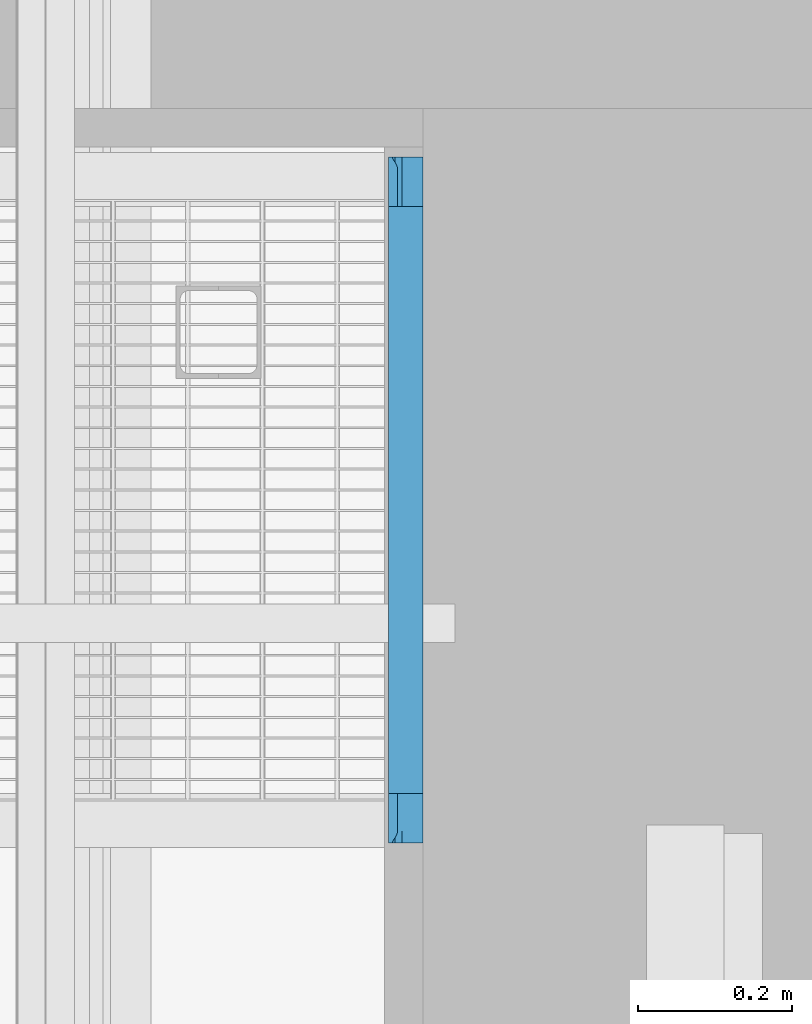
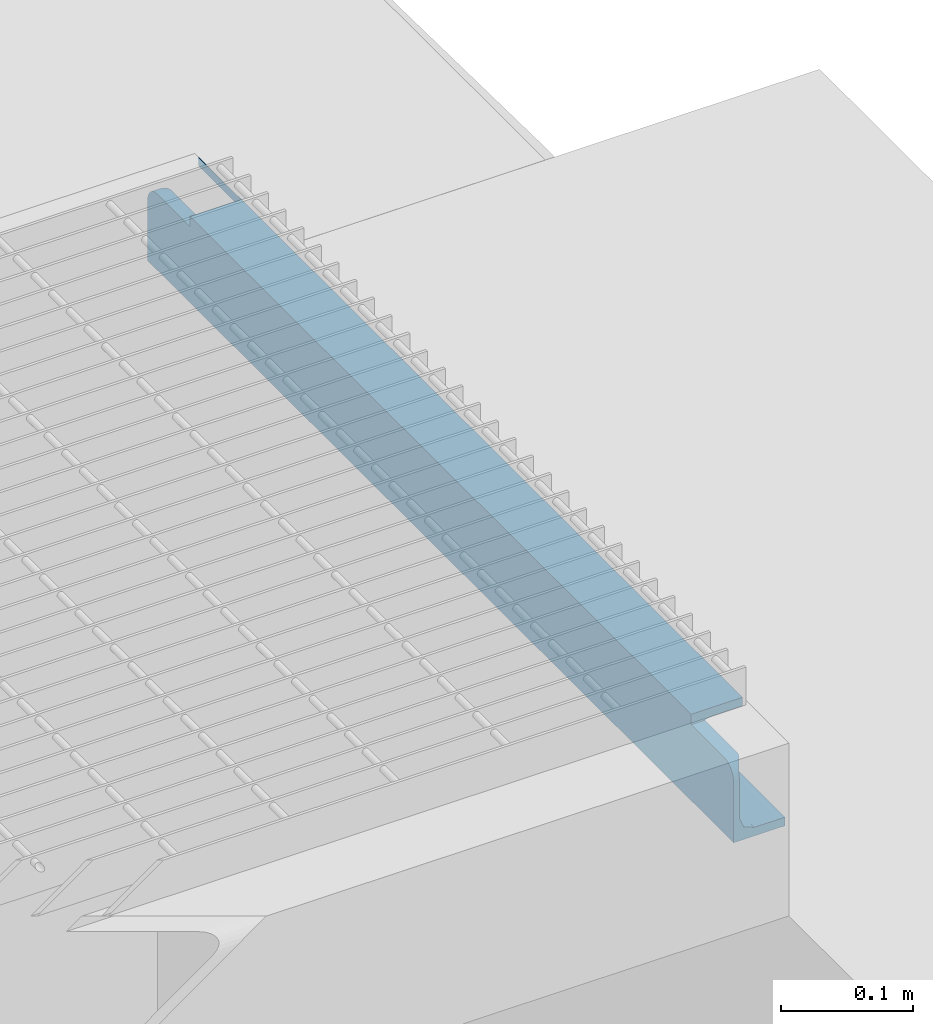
# One storey, part 54 of 75: 1 beam.
"""IFC2X3 building model written with IfcOpenShell, lengths in metres."""

from ifc_helpers import new_model, entity, si_unit, converted_unit, derived_unit, direction, frame, origin, place, context, subcontext, project, spatial, faceted_brep, material, type_object, element, save


model = new_model("IFC2X3")

# Units and contexts
model_context = context("Model", 3, precision=1e-05, world=origin(), true_north=direction((6.12303176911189e-17, 1.0)))
body_context = subcontext(model_context, "Body", "Model", "MODEL_VIEW")
ifc_project = project(units=[si_unit("LENGTHUNIT", "METRE"), si_unit("AREAUNIT", "SQUARE_METRE"), si_unit("VOLUMEUNIT", "CUBIC_METRE"), converted_unit("PLANEANGLEUNIT", "DEGREE", entity("IfcRatioMeasure", 0.0174532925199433), si_unit("PLANEANGLEUNIT", "RADIAN"), dimensions=[0, 0, 0, 0, 0, 0, 0]), si_unit("MASSUNIT", "GRAM", prefix="KILO"), derived_unit("MASSDENSITYUNIT", [(si_unit("MASSUNIT", "GRAM", prefix="KILO"), 1), (si_unit("LENGTHUNIT", "METRE"), -3)]), derived_unit("MOMENTOFINERTIAUNIT", [(si_unit("LENGTHUNIT", "METRE"), 4)]), si_unit("TIMEUNIT", "SECOND"), si_unit("FREQUENCYUNIT", "HERTZ"), si_unit("THERMODYNAMICTEMPERATUREUNIT", "DEGREE_CELSIUS"), derived_unit("THERMALTRANSMITTANCEUNIT", [(si_unit("MASSUNIT", "GRAM", prefix="KILO"), 1), (si_unit("THERMODYNAMICTEMPERATUREUNIT", "KELVIN"), -1), (si_unit("TIMEUNIT", "SECOND"), -3)]), derived_unit("VOLUMETRICFLOWRATEUNIT", [(si_unit("LENGTHUNIT", "METRE"), 3), (si_unit("TIMEUNIT", "SECOND"), -1)]), si_unit("ELECTRICCURRENTUNIT", "AMPERE"), si_unit("ELECTRICVOLTAGEUNIT", "VOLT"), si_unit("POWERUNIT", "WATT"), si_unit("FORCEUNIT", "NEWTON", prefix="KILO"), si_unit("ILLUMINANCEUNIT", "LUX"), si_unit("LUMINOUSFLUXUNIT", "LUMEN"), si_unit("LUMINOUSINTENSITYUNIT", "CANDELA"), derived_unit("USERDEFINED", [(si_unit("MASSUNIT", "GRAM", prefix="KILO"), -1), (si_unit("LENGTHUNIT", "METRE"), -2), (si_unit("TIMEUNIT", "SECOND"), 3), (si_unit("LUMINOUSFLUXUNIT", "LUMEN"), 1)]), derived_unit("LINEARVELOCITYUNIT", [(si_unit("LENGTHUNIT", "METRE"), 1), (si_unit("TIMEUNIT", "SECOND"), -1)]), si_unit("PRESSUREUNIT", "PASCAL"), derived_unit("USERDEFINED", [(si_unit("LENGTHUNIT", "METRE"), -2), (si_unit("MASSUNIT", "GRAM", prefix="KILO"), 1), (si_unit("TIMEUNIT", "SECOND"), -2)]), derived_unit("LINEARFORCEUNIT", [(si_unit("MASSUNIT", "GRAM", prefix="KILO"), 1), (si_unit("LENGTHUNIT", "METRE"), 1), (si_unit("TIMEUNIT", "SECOND"), -2), (si_unit("LENGTHUNIT", "METRE"), -1)]), derived_unit("PLANARFORCEUNIT", [(si_unit("MASSUNIT", "GRAM", prefix="KILO"), 1), (si_unit("LENGTHUNIT", "METRE"), 1), (si_unit("TIMEUNIT", "SECOND"), -2), (si_unit("LENGTHUNIT", "METRE"), -2)])], contexts=[model_context])

# Site, building, storey
site_placement = place(None, origin())
site = spatial("IfcSite", under=ifc_project, at=site_placement, Name="Superficie", CompositionType="ELEMENT")
building_placement = place(site_placement, origin())
building = spatial("IfcBuilding", under=site, at=building_placement, Name="Telegestiones", CompositionType="ELEMENT")
storey_placement = place(building_placement, origin())
storey = spatial("IfcBuildingStorey", under=building, at=storey_placement, Name="Nivel 0_NPT", CompositionType="ELEMENT", Elevation=0.0)

# Beam
ifc_material = material(Name="Metal - Acero - 345 MPa")
beam_type = type_object("IfcBeamType", Name="U-Canales de ala paralela:UAP80", PredefinedType="NOTDEFINED")
beam_placement = place(storey_placement, frame((14.9198126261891, 12.7898119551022, 17.78), z_axis=(0.0, 0.0, 1.0), x_axis=(0.0, -1.0, 0.0)))
element("IfcBeam", 1, at=beam_placement, inside=storey, type_object=beam_type, material=ifc_material, Name="U-Canales de ala paralela:UAP80", ObjectType="U-Canales de ala paralela:UAP80", context=body_context, shape_type="Brep", body=[
    faceted_brep([(-0.00159527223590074, 0.0450000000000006, 0.0), (-0.00159527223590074, 0.0450000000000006, 0.00800000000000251), (-0.00159527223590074, 0.0180000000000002, 0.00800000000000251), (-0.00159527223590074, 0.0140667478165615, 0.00962920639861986), (-0.00159527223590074, 0.0114371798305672, 0.0107184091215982), (-0.00159527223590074, 0.00880761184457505, 0.0118076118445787), (-0.00159527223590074, 0.00785570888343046, 0.0141057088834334), (-0.00159527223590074, 0.00690380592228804, 0.0164038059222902), (-0.00159527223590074, 0.00595190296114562, 0.0187019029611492), (-0.00159527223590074, 0.00500000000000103, 0.0210000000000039), (-0.00159527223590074, 0.00500000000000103, 0.0579413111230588), (-0.00159527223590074, 0.0, 0.0579413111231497), (-0.00159527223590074, 0.0, 0.0), (-0.890595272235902, 0.0180000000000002, 0.00800000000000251), (-0.890595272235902, 0.0450000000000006, 0.00800000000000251), (-0.890595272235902, 0.0450000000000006, 0.0), (-0.890595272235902, 0.0, 0.0), (-0.890595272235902, 0.0, 0.0579413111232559), (-0.890595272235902, 0.00500000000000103, 0.0579413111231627), (-0.890595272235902, 0.00500000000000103, 0.0210000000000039), (-0.8905952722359, 0.00581460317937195, 0.0190333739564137), (-0.8905952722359, 0.00690380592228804, 0.0164038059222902), (-0.8905952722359, 0.00785570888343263, 0.0141057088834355), (-0.890595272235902, 0.00880761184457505, 0.0118076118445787), (-0.8905952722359, 0.0111057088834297, 0.0108557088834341), (-0.8905952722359, 0.0134038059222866, 0.00990380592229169), (-0.8905952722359, 0.0160333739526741, 0.00881460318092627), (-0.8905952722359, 0.044738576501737, 0.0800000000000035), (-0.8905952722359, 0.0450000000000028, 0.0800000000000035), (-0.8905952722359, 0.0450000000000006, 0.0720000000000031), (-0.8905952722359, 0.0447385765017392, 0.0720000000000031), (-0.0658952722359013, 0.0, 0.0800000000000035), (-0.0658952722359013, 0.0450000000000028, 0.0800000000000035), (-0.826295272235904, 0.044738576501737, 0.0800000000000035), (-0.826295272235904, 0.0, 0.0800000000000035), (-0.0658952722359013, 0.0450000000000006, 0.0720000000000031), (-0.0658952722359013, 0.0180000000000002, 0.0720000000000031), (-0.128842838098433, 0.0180000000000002, 0.0720000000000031), (-0.194304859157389, 0.0180000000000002, 0.0720000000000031), (-0.322714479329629, 0.0180000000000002, 0.0720000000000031), (-0.448609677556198, 0.0180000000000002, 0.0720000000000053), (-0.574504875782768, 0.0180000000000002, 0.0720000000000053), (-0.700400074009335, 0.0180000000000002, 0.0720000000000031), (-0.76334767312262, 0.0180000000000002, 0.0720000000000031), (-0.826295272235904, 0.0180000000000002, 0.0720000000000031), (-0.826295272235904, 0.044738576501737, 0.0720000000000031), (-0.125338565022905, 0.00873473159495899, 0.0681189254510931), (-0.00990097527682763, 0.00971902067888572, 0.0690212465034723), (-0.00722207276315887, 0.00805140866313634, 0.0673681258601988), (-0.544296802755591, 0.00667192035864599, 0.0653776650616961), (-0.463738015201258, 0.00590908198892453, 0.0637759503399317), (-0.537050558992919, 0.00560250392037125, 0.0629117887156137), (-0.792641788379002, 0.00525335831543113, 0.0615540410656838), (-0.794133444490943, 0.00500000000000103, 0.0590000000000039), (-0.890381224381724, 0.00500000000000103, 0.0590000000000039), (-0.0658952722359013, 0.0119378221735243, 0.0705000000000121), (-0.138679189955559, 0.0108749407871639, 0.0698735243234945), (-0.289684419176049, 0.00818591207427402, 0.0675254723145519), (-0.235689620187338, 0.00983678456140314, 0.0691174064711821), (-0.221438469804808, 0.00711297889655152, 0.0661044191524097), (-0.828358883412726, 0.00588467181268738, 0.0637136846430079), (-0.754190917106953, 0.0058648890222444, 0.0636625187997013), (-0.122570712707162, 0.00586898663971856, 0.0636731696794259), (-0.00489743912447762, 0.00653775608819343, 0.0651332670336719), (-0.00303111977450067, 0.00542889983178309, 0.0623117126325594), (-0.139747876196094, 0.0133736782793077, 0.0711489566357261), (-0.0658952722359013, 0.0148775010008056, 0.071619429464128), (-0.826295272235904, 0.0148775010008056, 0.071619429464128), (-0.72500678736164, 0.007054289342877, 0.0660136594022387), (-0.806159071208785, 0.007190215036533, 0.0662213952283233), (-0.751188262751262, 0.00871967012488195, 0.0681035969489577), (-0.82174199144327, 0.00878771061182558, 0.0681724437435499), (-0.73187387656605, 0.0157137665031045, 0.0717973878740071), (-0.656388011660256, 0.0158751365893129, 0.0718251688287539), (-0.887293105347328, 0.00653775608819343, 0.0651332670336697), (-0.884968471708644, 0.00805140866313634, 0.0673681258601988), (-0.153427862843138, 0.00681728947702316, 0.065629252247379), (-0.0851009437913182, 0.00708655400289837, 0.0660637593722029), (-0.223870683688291, 0.00557806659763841, 0.0628334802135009), (-0.324805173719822, 0.00685931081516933, 0.0656996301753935), (-0.889159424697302, 0.00542889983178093, 0.0623117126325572), (-0.0163952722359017, 0.01193782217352, 0.07050000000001), (-0.0129474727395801, 0.0112305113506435, 0.0700983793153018), (-0.875795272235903, 0.0119378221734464, 0.070499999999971), (-0.826295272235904, 0.0119378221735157, 0.0705000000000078), (-0.879243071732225, 0.0112305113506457, 0.0700983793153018), (-0.39938042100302, 0.00536884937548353, 0.0620747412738), (-0.392844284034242, 0.00621995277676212, 0.0644982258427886), (-0.226457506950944, 0.0133736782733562, 0.0711489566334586), (-0.161573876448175, 0.0157225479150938, 0.0717989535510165), (-0.753454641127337, 0.0133736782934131, 0.0711489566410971), (-0.667605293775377, 0.0133736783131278, 0.0711489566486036), (-0.710529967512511, 0.0108989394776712, 0.0698892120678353), (-0.882289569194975, 0.00971902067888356, 0.0690212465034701), (-0.390878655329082, 0.0147556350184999, 0.0715886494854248), (-0.511557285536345, 0.0147219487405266, 0.0715799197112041), (-0.447031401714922, 0.0116878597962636, 0.0703647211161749), (-0.155170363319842, 0.00522625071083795, 0.0614148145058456), (-0.0800317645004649, 0.00520855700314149, 0.0613192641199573), (-0.127704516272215, 0.00500000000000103, 0.0590000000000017), (-0.717894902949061, 0.00523967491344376, 0.0614847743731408), (-0.664463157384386, 0.00890351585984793, 0.068287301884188), (-0.313627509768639, 0.0152996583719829, 0.0717164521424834), (-0.236434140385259, 0.0158580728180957, 0.071822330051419), (-0.5669123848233, 0.011307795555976, 0.0701451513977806), (-0.449725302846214, 0.007164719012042, 0.0661830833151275), (-0.330812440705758, 0.01176120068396, 0.0704051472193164), (-0.00180932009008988, 0.00500000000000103, 0.0590000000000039), (-0.374471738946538, 0.00795566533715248, 0.0672529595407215), (-0.339661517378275, 0.00960203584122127, 0.0689234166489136), (-0.495596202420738, 0.00856943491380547, 0.0679478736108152), (-0.419471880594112, 0.00955595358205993, 0.0688842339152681), (-0.591250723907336, 0.0142535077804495, 0.0714484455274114), (-0.637492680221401, 0.0107328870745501, 0.0697791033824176), (-0.580926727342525, 0.00847032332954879, 0.0678422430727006), (-0.614751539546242, 0.00554163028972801, 0.0627133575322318), (-0.479182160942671, 0.00521908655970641, 0.0613766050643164), (-0.636794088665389, 0.00709380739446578, 0.0660749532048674), (-0.601637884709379, 0.00499999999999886, 0.0590000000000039), (-0.69788566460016, 0.00500000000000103, 0.0590000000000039), (-0.682036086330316, 0.00583156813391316, 0.0635748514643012), (-0.505390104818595, 0.00500000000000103, 0.0590000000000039), (-0.327009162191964, 0.00576169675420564, 0.0633845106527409), (-0.253599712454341, 0.00500000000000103, 0.0590000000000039), (-0.379494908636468, 0.00500000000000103, 0.0590000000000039), (-0.890497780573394, 0.00500000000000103, 0.0584725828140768), (-0.00169276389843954, 0.00500000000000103, 0.058472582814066), (-0.127490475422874, 0.00500000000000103, 0.0210000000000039), (-0.253385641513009, 0.00500000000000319, 0.0210000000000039), (-0.349740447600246, 0.00500000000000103, 0.0210000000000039), (-0.446095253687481, 0.00500000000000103, 0.0210000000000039), (-0.557220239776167, 0.00500000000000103, 0.0210000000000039), (-0.668345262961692, 0.00499999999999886, 0.0210000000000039), (-0.764700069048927, 0.00500000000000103, 0.0210000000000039), (-0.0794870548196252, 0.00972190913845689, 0.0109763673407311), (-0.43599753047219, 0.00556213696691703, 0.0172185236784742), (-0.373294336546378, 0.00522987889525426, 0.0185660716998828), (-0.639580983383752, 0.0053531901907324, 0.0179903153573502), (-0.632632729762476, 0.00637757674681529, 0.0151759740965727), (-0.716522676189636, 0.00574745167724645, 0.0166554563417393), (-0.44921188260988, 0.012354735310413, 0.00928970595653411), (-0.320388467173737, 0.0113965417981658, 0.009802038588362), (-0.338837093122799, 0.0147439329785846, 0.00841437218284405), (-0.524503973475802, 0.0144490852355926, 0.00849436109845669), (-0.5129096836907, 0.0180000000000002, 0.00800000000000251), (-0.601869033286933, 0.0154448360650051, 0.00825358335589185), (-0.403832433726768, 0.00939162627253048, 0.0112585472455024), (-0.673005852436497, 0.0104857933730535, 0.010391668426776), (-0.573219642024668, 0.0105107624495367, 0.0103740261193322), (-0.608382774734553, 0.0127204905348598, 0.00912032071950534), (-0.557220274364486, 0.00560622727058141, 0.0170764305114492), (-0.300537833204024, 0.00846054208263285, 0.0121683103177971), (-0.726955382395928, 0.0139509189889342, 0.00864666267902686), (-0.764700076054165, 0.0180000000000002, 0.00800000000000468), (-0.813619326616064, 0.0144028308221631, 0.00850758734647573), (-0.207094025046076, 0.00538630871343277, 0.0178544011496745), (-0.301563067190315, 0.00537533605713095, 0.0178987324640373), (-0.349740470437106, 0.00647967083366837, 0.0149765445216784), (-0.150052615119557, 0.0110865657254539, 0.00999071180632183), (-0.0758239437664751, 0.0123642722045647, 0.00928511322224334), (-0.153439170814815, 0.00630537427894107, 0.015322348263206), (-0.0880955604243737, 0.00767465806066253, 0.0131014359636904), (-0.183268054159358, 0.0083334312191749, 0.0123076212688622), (-0.236059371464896, 0.0108404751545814, 0.0101491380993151), (-0.118743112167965, 0.00535692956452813, 0.0179746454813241), (-0.0782307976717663, 0.00607386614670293, 0.0158262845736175), (-0.251391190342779, 0.0134664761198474, 0.00881611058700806), (-0.0763306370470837, 0.0152252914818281, 0.00829956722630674), (-0.160897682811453, 0.0144821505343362, 0.00848501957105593), (-0.127490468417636, 0.0180000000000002, 0.00800000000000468), (-0.194304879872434, 0.0180000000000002, 0.00800000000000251), (-0.290659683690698, 0.0180000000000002, 0.00800000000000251), (-0.387014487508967, 0.0180000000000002, 0.00800000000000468), (-0.274648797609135, 0.0156603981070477, 0.00821226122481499), (-0.428012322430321, 0.0152285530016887, 0.00829885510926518), (-0.512909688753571, 0.00904802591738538, 0.0115733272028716), (-0.544443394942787, 0.00701878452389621, 0.0140420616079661), (-0.607082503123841, 0.00857249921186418, 0.0120488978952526), (-0.785766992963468, 0.00998354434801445, 0.0107659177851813), (-0.700833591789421, 0.00807841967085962, 0.0125998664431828), (-0.638804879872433, 0.0180000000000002, 0.00800000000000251), (-0.802846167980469, 0.00747715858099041, 0.0133665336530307), (-0.807175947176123, 0.00550758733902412, 0.0174028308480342), (-0.447339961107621, 0.00719760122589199, 0.0137675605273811), (-0.251589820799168, 0.00639123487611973, 0.0151487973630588), (-0.36912841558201, 0.00783049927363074, 0.0129017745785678), (-0.698574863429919, 0.00670885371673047, 0.0145571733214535), (-0.821923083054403, 0.0119518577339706, 0.00949261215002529), (-0.0163952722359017, 0.0, 0.07050000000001), (-0.0658952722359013, 0.0, 0.0705000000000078), (-0.826295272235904, 0.0, 0.0705000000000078), (-0.875795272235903, 0.0, 0.07050000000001), (-0.879281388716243, 0.0, 0.070089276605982), (-0.882576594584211, 0.0, 0.0688795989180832), (-0.885500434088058, 0.0, 0.0669372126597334), (-0.887892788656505, 0.0, 0.0643684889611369), (-0.889622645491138, 0.0, 0.0613140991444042), (-0.00256789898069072, 0.0, 0.0613140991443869), (-0.00429775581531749, 0.0, 0.0643684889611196), (-0.00669011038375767, 0.0, 0.0669372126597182), (-0.00961394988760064, 0.0, 0.0688795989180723), (-0.0129091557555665, 0.0, 0.0700892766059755)], [[[0, 1, 2, 3, 4, 5, 6, 7, 8, 9, 10, 11, 12]], [[13, 14, 15, 16, 17, 18, 19, 20, 21, 22, 23, 24, 25, 26]], [[27, 28, 29, 30]], [[31, 32, 28, 27, 33, 34]], [[28, 32, 35, 29]], [[14, 1, 0, 15]], [[30, 29, 35, 36, 37, 38, 39, 40, 41, 42, 43, 44, 45]], [[46, 47, 48]], [[49, 50, 51]], [[52, 53, 54]], [[55, 46, 56]], [[46, 55, 47]], [[57, 58, 59]], [[60, 61, 52]], [[62, 63, 64]], [[55, 65, 66]], [[37, 36, 66]], [[44, 43, 67]], [[68, 69, 70]], [[70, 69, 71]], [[46, 59, 58]], [[72, 42, 73]], [[69, 74, 75]], [[72, 43, 42]], [[76, 77, 62]], [[78, 79, 59]], [[74, 60, 80]], [[81, 82, 55]], [[83, 84, 85]], [[86, 50, 87]], [[56, 65, 55]], [[88, 89, 65]], [[48, 77, 46]], [[90, 91, 92]], [[90, 84, 67]], [[84, 93, 85]], [[40, 39, 94]], [[62, 77, 63]], [[75, 93, 71]], [[95, 94, 96]], [[97, 98, 99]], [[84, 71, 93]], [[52, 61, 100]], [[82, 47, 55]], [[92, 101, 70]], [[102, 39, 103]], [[62, 64, 98]], [[95, 96, 104]], [[50, 105, 87]], [[74, 69, 60]], [[103, 89, 88]], [[61, 69, 68]], [[75, 71, 69]], [[70, 71, 84]], [[58, 106, 88]], [[52, 100, 53]], [[107, 98, 64]], [[57, 108, 109]], [[110, 104, 96]], [[59, 79, 57]], [[96, 94, 106]], [[106, 109, 111]], [[73, 41, 112]], [[41, 40, 95]], [[104, 112, 95]], [[113, 92, 91]], [[109, 108, 111]], [[114, 113, 104]], [[51, 115, 49]], [[49, 114, 110]], [[116, 50, 86]], [[66, 89, 37]], [[58, 88, 56]], [[70, 84, 92]], [[90, 67, 72]], [[90, 92, 84]], [[70, 101, 68]], [[117, 101, 114]], [[101, 92, 113]], [[117, 114, 49]], [[110, 114, 104]], [[118, 119, 115]], [[105, 50, 49]], [[49, 115, 117]], [[61, 120, 100]], [[121, 118, 51]], [[102, 103, 88]], [[40, 94, 95]], [[52, 54, 80]], [[76, 62, 78]], [[65, 56, 88]], [[56, 46, 58]], [[61, 68, 120]], [[117, 68, 101]], [[38, 37, 89]], [[103, 38, 89]], [[65, 89, 66]], [[103, 39, 38]], [[94, 39, 102]], [[72, 73, 91]], [[43, 72, 67]], [[90, 72, 91]], [[91, 73, 112]], [[73, 42, 41]], [[91, 112, 104]], [[95, 112, 41]], [[116, 51, 50]], [[122, 123, 124]], [[61, 60, 69]], [[60, 52, 80]], [[119, 53, 100]], [[100, 115, 119]], [[115, 100, 120]], [[120, 117, 115]], [[117, 120, 68]], [[101, 113, 114]], [[104, 113, 91]], [[78, 123, 122]], [[99, 123, 97]], [[115, 51, 118]], [[121, 51, 116]], [[116, 124, 121]], [[87, 122, 86]], [[86, 124, 116]], [[86, 122, 124]], [[122, 87, 79]], [[105, 111, 108]], [[87, 105, 108]], [[110, 105, 49]], [[63, 77, 48]], [[59, 46, 76]], [[77, 76, 46]], [[59, 76, 78]], [[62, 98, 97]], [[99, 98, 107]], [[97, 78, 62]], [[78, 97, 123]], [[106, 58, 109]], [[108, 57, 79]], [[57, 109, 58]], [[96, 106, 111]], [[111, 110, 96]], [[110, 111, 105]], [[108, 79, 87]], [[78, 122, 79]], [[102, 106, 94]], [[106, 102, 88]], [[19, 18, 125, 54, 53, 119, 118, 121, 124, 123, 99, 107, 126, 10, 9, 127, 128, 129, 130, 131, 132, 133]], [[4, 134, 5]], [[135, 130, 136]], [[137, 138, 139]], [[140, 141, 142]], [[143, 144, 145]], [[146, 141, 140]], [[147, 148, 149]], [[131, 150, 137]], [[141, 146, 151]], [[152, 153, 154]], [[128, 127, 155]], [[156, 157, 136]], [[158, 134, 159]], [[160, 161, 162]], [[141, 151, 163]], [[164, 165, 160]], [[166, 142, 141]], [[166, 141, 163]], [[167, 3, 2]], [[158, 166, 163]], [[3, 167, 159]], [[168, 169, 170]], [[171, 172, 142]], [[170, 173, 168]], [[168, 173, 166]], [[174, 143, 140]], [[140, 148, 175]], [[142, 174, 140]], [[172, 174, 142]], [[176, 175, 177]], [[149, 152, 147]], [[176, 150, 135]], [[132, 139, 133]], [[147, 178, 179]], [[145, 180, 152]], [[178, 23, 181]], [[133, 182, 20]], [[21, 182, 181]], [[20, 182, 21]], [[183, 175, 176]], [[176, 138, 150]], [[146, 175, 183]], [[142, 166, 173]], [[168, 166, 158]], [[163, 162, 158]], [[162, 151, 184]], [[162, 163, 151]], [[185, 146, 183]], [[5, 134, 161]], [[184, 160, 162]], [[151, 146, 185]], [[175, 146, 140]], [[157, 183, 135]], [[176, 135, 183]], [[129, 128, 156]], [[130, 135, 150]], [[184, 156, 155]], [[129, 156, 136]], [[157, 156, 184]], [[157, 184, 151]], [[164, 160, 155]], [[160, 184, 155]], [[165, 6, 161]], [[155, 156, 128]], [[8, 164, 127]], [[127, 164, 155]], [[165, 8, 7, 6]], [[138, 137, 150]], [[177, 138, 176]], [[138, 186, 139]], [[179, 138, 177]], [[179, 177, 147]], [[177, 175, 148]], [[178, 181, 179]], [[180, 153, 152]], [[147, 152, 178]], [[26, 154, 153]], [[187, 24, 178]], [[154, 25, 187]], [[186, 179, 181]], [[22, 21, 181, 23]], [[158, 162, 134]], [[131, 130, 150]], [[137, 139, 132]], [[160, 165, 161]], [[8, 127, 9]], [[20, 19, 133]], [[161, 134, 162]], [[4, 3, 159]], [[159, 167, 168]], [[4, 159, 134]], [[158, 159, 168]], [[167, 169, 168]], [[169, 167, 2]], [[143, 148, 140]], [[174, 172, 144]], [[149, 143, 145]], [[143, 174, 144]], [[177, 148, 147]], [[143, 149, 148]], [[149, 145, 152]], [[180, 145, 144]], [[25, 154, 26]], [[153, 13, 26]], [[178, 152, 187]], [[154, 187, 152]], [[23, 178, 24]], [[187, 25, 24]], [[182, 139, 181]], [[139, 182, 133]], [[173, 171, 142]], [[131, 137, 132]], [[171, 173, 170]], [[185, 157, 151]], [[157, 185, 183]], [[129, 136, 130]], [[135, 136, 157]], [[164, 8, 165]], [[139, 186, 181]], [[186, 138, 179]], [[6, 5, 161]], [[1, 14, 13, 153, 180, 144, 172, 171, 170, 169, 2]], [[15, 0, 12, 16]], [[188, 189, 31, 34, 190, 191, 192, 193, 194, 195, 196, 17, 16, 12, 11, 197, 198, 199, 200, 201]], [[30, 45, 33, 27]], [[17, 54, 125]], [[54, 17, 196]], [[54, 196, 80]], [[80, 196, 195]], [[125, 18, 17]], [[74, 80, 195]], [[195, 194, 74]], [[75, 194, 193]], [[93, 193, 192]], [[85, 192, 191]], [[75, 193, 93]], [[85, 93, 192]], [[83, 85, 191]], [[194, 75, 74]], [[84, 83, 191, 190]], [[55, 189, 188, 81]], [[84, 190, 34, 33, 45, 44, 67]], [[55, 66, 36, 35, 32, 31, 189]], [[82, 188, 201]], [[47, 201, 200]], [[48, 200, 199]], [[81, 188, 82]], [[82, 201, 47]], [[200, 48, 47]], [[199, 63, 48]], [[64, 198, 197]], [[197, 11, 107]], [[10, 126, 11]], [[64, 63, 198]], [[126, 107, 11]], [[64, 197, 107]], [[198, 63, 199]]]),
])

save(model, "model.ifc")
